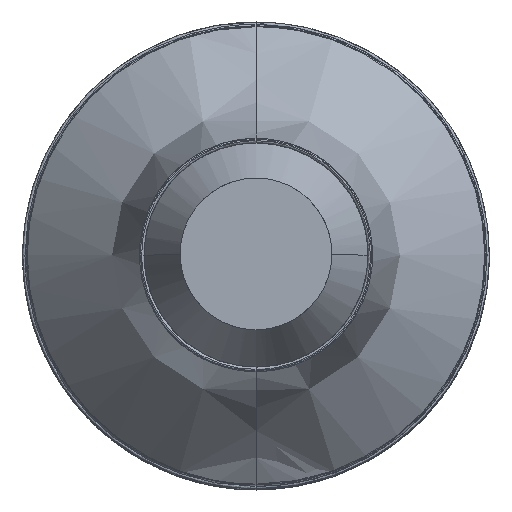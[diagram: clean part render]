
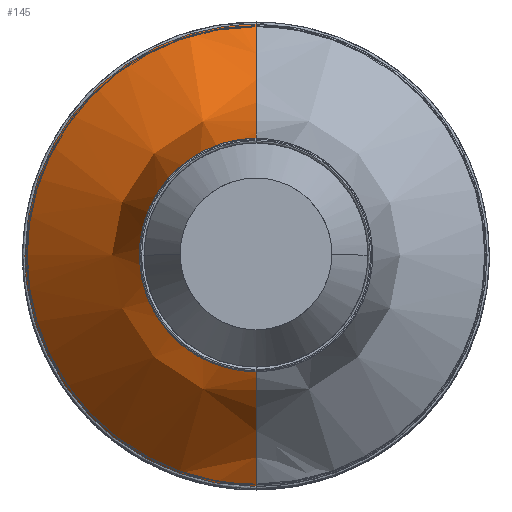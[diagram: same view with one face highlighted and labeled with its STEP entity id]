
A CAD part, top view. The second image highlights one B-rep face of the part: STEP entity #145.
In plain terms, the highlighted free-form (B-spline) face has degree [2, 2] with [3, 5] control points.
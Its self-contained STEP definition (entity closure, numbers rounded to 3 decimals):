
#145=ADVANCED_FACE($,(#284),#1753,.T.);
#284=FACE_OUTER_BOUND($,#425,.T.);
#425=EDGE_LOOP($,(#923,#924,#925,#926,#927));
#923=ORIENTED_EDGE($,*,*,#1369,.T.);
#924=ORIENTED_EDGE($,*,*,#1370,.T.);
#925=ORIENTED_EDGE($,*,*,#1359,.F.);
#926=ORIENTED_EDGE($,*,*,#1354,.F.);
#927=ORIENTED_EDGE($,*,*,#1368,.F.);
#1354=EDGE_CURVE($,#1601,#1602,#2024,.T.);
#1359=EDGE_CURVE($,#1602,#1603,#2029,.T.);
#1368=EDGE_CURVE($,#1608,#1601,#2038,.T.);
#1369=EDGE_CURVE($,#1608,#1609,#2039,.T.);
#1370=EDGE_CURVE($,#1609,#1603,#2040,.T.);
#1601=VERTEX_POINT($,#4959);
#1602=VERTEX_POINT($,#4960);
#1603=VERTEX_POINT($,#4961);
#1608=VERTEX_POINT($,#4966);
#1609=VERTEX_POINT($,#4967);
#1753=(
BOUNDED_SURFACE()
B_SPLINE_SURFACE(2,2,((#4822,#4823,#4824,#4825,#4826),(#4827,#4828,#4829,
#4830,#4831),(#4832,#4833,#4834,#4835,#4836)),.UNSPECIFIED.,.F.,.F.,.F.)
B_SPLINE_SURFACE_WITH_KNOTS((3,3),(3,2,3),(1462.398,1767.486),
(1857.272,2785.909,3714.545),.UNSPECIFIED.)
GEOMETRIC_REPRESENTATION_ITEM()
RATIONAL_B_SPLINE_SURFACE(((0.875,0.619,0.875,
0.619,0.875),(0.798,0.564,
0.798,0.564,0.798),(1.,0.707,
1.,0.707,1.)))
REPRESENTATION_ITEM($)
SURFACE()
);
#2024=(
BOUNDED_CURVE()
B_SPLINE_CURVE(2,(#4686,#4687,#4688),.UNSPECIFIED.,.F.,.F.)
B_SPLINE_CURVE_WITH_KNOTS((3,3),(-6.283,-4.712),.UNSPECIFIED.)
CURVE()
GEOMETRIC_REPRESENTATION_ITEM()
RATIONAL_B_SPLINE_CURVE((1.,0.707,1.))
REPRESENTATION_ITEM($)
);
#2029=(
BOUNDED_CURVE()
B_SPLINE_CURVE(2,(#4705,#4706,#4707),.UNSPECIFIED.,.F.,.F.)
B_SPLINE_CURVE_WITH_KNOTS((3,3),(1462.398,1767.486),.UNSPECIFIED.)
CURVE()
GEOMETRIC_REPRESENTATION_ITEM()
RATIONAL_B_SPLINE_CURVE((1.,0.853,1.))
REPRESENTATION_ITEM($)
);
#2038=(
BOUNDED_CURVE()
B_SPLINE_CURVE(2,(#4738,#4739,#4740),.UNSPECIFIED.,.F.,.F.)
B_SPLINE_CURVE_WITH_KNOTS((3,3),(-1.571,0.),.UNSPECIFIED.)
CURVE()
GEOMETRIC_REPRESENTATION_ITEM()
RATIONAL_B_SPLINE_CURVE((1.,0.707,1.))
REPRESENTATION_ITEM($)
);
#2039=(
BOUNDED_CURVE()
B_SPLINE_CURVE(2,(#4741,#4742,#4743),.UNSPECIFIED.,.F.,.F.)
B_SPLINE_CURVE_WITH_KNOTS((3,3),(1462.398,1767.486),.UNSPECIFIED.)
CURVE()
GEOMETRIC_REPRESENTATION_ITEM()
RATIONAL_B_SPLINE_CURVE((1.,0.853,1.))
REPRESENTATION_ITEM($)
);
#2040=(
BOUNDED_CURVE()
B_SPLINE_CURVE(2,(#4744,#4745,#4746,#4747,#4748),.UNSPECIFIED.,.F.,.F.)
B_SPLINE_CURVE_WITH_KNOTS((3,2,3),(1857.272,2785.909,3714.545),
.UNSPECIFIED.)
CURVE()
GEOMETRIC_REPRESENTATION_ITEM()
RATIONAL_B_SPLINE_CURVE((1.,0.707,1.,0.707,1.))
REPRESENTATION_ITEM($)
);
#4686=CARTESIAN_POINT($,(9982.729,4561.115,-107.976));
#4687=CARTESIAN_POINT($,(9982.729,4759.115,-107.976));
#4688=CARTESIAN_POINT($,(10180.729,4759.115,-107.976));
#4705=CARTESIAN_POINT($,(10180.729,4759.115,-107.976));
#4706=CARTESIAN_POINT($,(10180.729,4659.375,-57.005));
#4707=CARTESIAN_POINT($,(10180.729,4659.375,55.005));
#4738=CARTESIAN_POINT($,(10180.729,4363.115,-107.976));
#4739=CARTESIAN_POINT($,(9982.729,4363.115,-107.976));
#4740=CARTESIAN_POINT($,(9982.729,4561.115,-107.976));
#4741=CARTESIAN_POINT($,(10180.729,4363.115,-107.976));
#4742=CARTESIAN_POINT($,(10180.729,4462.855,-57.005));
#4743=CARTESIAN_POINT($,(10180.729,4462.855,55.005));
#4744=CARTESIAN_POINT($,(10180.729,4462.855,55.005));
#4745=CARTESIAN_POINT($,(10082.469,4462.855,55.005));
#4746=CARTESIAN_POINT($,(10082.469,4561.115,55.005));
#4747=CARTESIAN_POINT($,(10082.469,4659.375,55.005));
#4748=CARTESIAN_POINT($,(10180.729,4659.375,55.005));
#4822=CARTESIAN_POINT($,(10180.729,4363.115,-107.976));
#4823=CARTESIAN_POINT($,(9982.729,4363.115,-107.976));
#4824=CARTESIAN_POINT($,(9982.729,4561.115,-107.976));
#4825=CARTESIAN_POINT($,(9982.729,4759.115,-107.976));
#4826=CARTESIAN_POINT($,(10180.729,4759.115,-107.976));
#4827=CARTESIAN_POINT($,(10180.729,4462.855,-57.005));
#4828=CARTESIAN_POINT($,(10082.469,4462.855,-57.005));
#4829=CARTESIAN_POINT($,(10082.469,4561.115,-57.005));
#4830=CARTESIAN_POINT($,(10082.469,4659.375,-57.005));
#4831=CARTESIAN_POINT($,(10180.729,4659.375,-57.005));
#4832=CARTESIAN_POINT($,(10180.729,4462.855,55.005));
#4833=CARTESIAN_POINT($,(10082.469,4462.855,55.005));
#4834=CARTESIAN_POINT($,(10082.469,4561.115,55.005));
#4835=CARTESIAN_POINT($,(10082.469,4659.375,55.005));
#4836=CARTESIAN_POINT($,(10180.729,4659.375,55.005));
#4959=CARTESIAN_POINT($,(9982.729,4561.115,-107.976));
#4960=CARTESIAN_POINT($,(10180.729,4759.115,-107.976));
#4961=CARTESIAN_POINT($,(10180.729,4659.375,55.005));
#4966=CARTESIAN_POINT($,(10180.729,4363.115,-107.976));
#4967=CARTESIAN_POINT($,(10180.729,4462.855,55.005));
